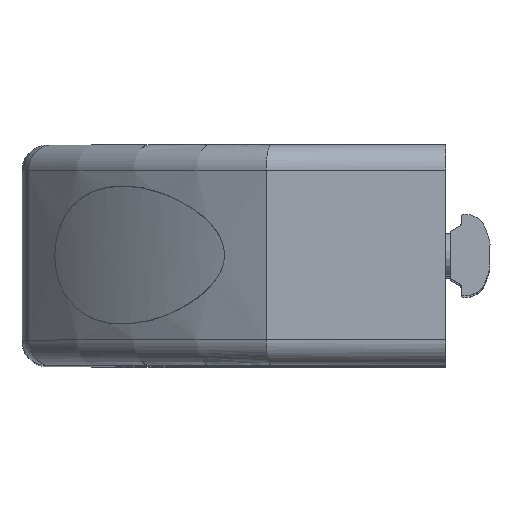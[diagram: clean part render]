
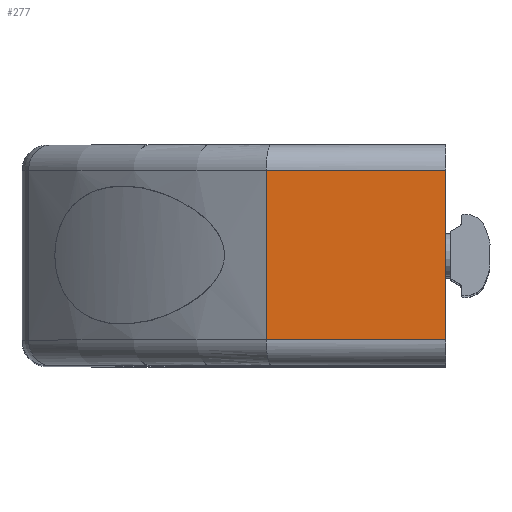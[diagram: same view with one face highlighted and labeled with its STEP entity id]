
A CAD part, top view. The second image highlights one B-rep face of the part: STEP entity #277.
In plain terms, the highlighted planar face has unit normal (0, 0, 1) as drawn and (1, 0, 0) by its records, which use the part's own axes.
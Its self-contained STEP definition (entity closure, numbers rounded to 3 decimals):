
#277=ADVANCED_FACE('',(#528),#529,.F.);
#528=FACE_OUTER_BOUND('',#832,.T.);
#529=PLANE('',#833);
#832=EDGE_LOOP('',(#1220,#1221,#1222,#1223));
#833=AXIS2_PLACEMENT_3D('',#1224,#1225,#1226);
#1220=ORIENTED_EDGE('',*,*,#1903,.T.);
#1221=ORIENTED_EDGE('',*,*,#1904,.T.);
#1222=ORIENTED_EDGE('',*,*,#1833,.F.);
#1223=ORIENTED_EDGE('',*,*,#1905,.T.);
#1224=CARTESIAN_POINT('',(142.0,0.0,26.0));
#1225=DIRECTION('',(-1.0,0.,0.0));
#1226=DIRECTION('',(0.,-1.0,0.0));
#1833=EDGE_CURVE('',#2318,#2319,#2320,.T.);
#1903=EDGE_CURVE('',#2437,#2438,#2439,.T.);
#1904=EDGE_CURVE('',#2438,#2319,#2440,.T.);
#1905=EDGE_CURVE('',#2318,#2437,#2441,.F.);
#2318=VERTEX_POINT('',#2860);
#2319=VERTEX_POINT('',#2861);
#2320=LINE('',#2862,#2863);
#2437=VERTEX_POINT('',#3356);
#2438=VERTEX_POINT('',#3357);
#2439=LINE('',#3358,#3359);
#2440=LINE('',#3360,#3361);
#2441=LINE('',#3362,#3363);
#2860=CARTESIAN_POINT('',(142.0,21.197,23.0));
#2861=CARTESIAN_POINT('',(142.0,21.197,3.0));
#2862=CARTESIAN_POINT('',(142.0,21.197,26.0));
#2863=VECTOR('',#4076,1.0);
#3356=CARTESIAN_POINT('',(142.0,0.0,23.0));
#3357=CARTESIAN_POINT('',(142.0,0.0,3.0));
#3358=CARTESIAN_POINT('',(142.0,0.0,26.0));
#3359=VECTOR('',#4162,1.0);
#3360=CARTESIAN_POINT('',(142.0,0.0,3.0));
#3361=VECTOR('',#4163,1.0);
#3362=CARTESIAN_POINT('',(142.0,0.,23.0));
#3363=VECTOR('',#4164,1.0);
#4076=DIRECTION('',(0.0,0.0,-1.0));
#4162=DIRECTION('',(0.0,0.0,-1.0));
#4163=DIRECTION('',(0.,1.0,0.0));
#4164=DIRECTION('',(0.,1.0,0.0));
